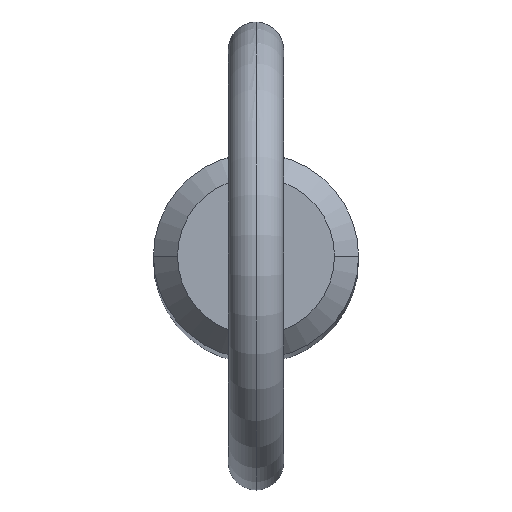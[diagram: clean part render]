
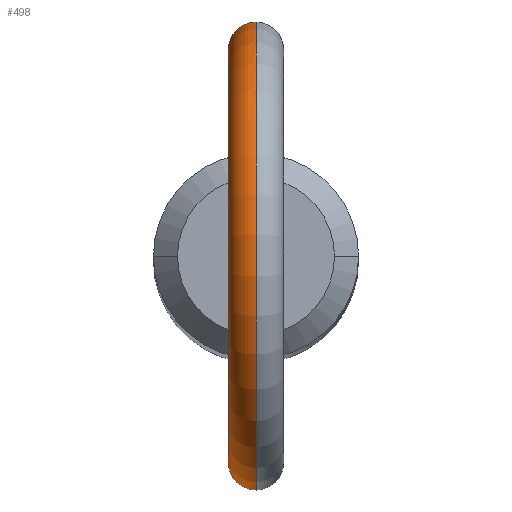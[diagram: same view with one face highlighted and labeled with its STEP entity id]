
A CAD part, top view. The second image highlights one B-rep face of the part: STEP entity #498.
In plain terms, the highlighted toroidal (fillet/blend) face has major radius 11.2 mm and minor radius 1.5 mm.
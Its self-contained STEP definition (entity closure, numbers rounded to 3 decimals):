
#8 = CARTESIAN_POINT ( 'NONE',  ( 0., 0., 132.1 ) ) ;
#16 = CARTESIAN_POINT ( 'NONE',  ( 0., 5.55, 120.677 ) ) ;
#22 = CARTESIAN_POINT ( 'NONE',  ( -0.213, 5.55, 124.145 ) ) ;
#23 = CARTESIAN_POINT ( 'NONE',  ( -0.212, -5.547, 120.688 ) ) ;
#27 = CARTESIAN_POINT ( 'NONE',  ( -0.42, -5.535, 120.732 ) ) ;
#32 = CARTESIAN_POINT ( 'NONE',  ( 0., -5.55, 124.145 ) ) ;
#42 = TOROIDAL_SURFACE ( 'NONE', #123, 11.2, 1.5 ) ;
#43 = DIRECTION ( 'NONE',  ( 0., 0., -1. ) ) ;
#48 = CIRCLE ( 'NONE', #479, 9.7 ) ;
#52 = CARTESIAN_POINT ( 'NONE',  ( 0., 5.55, 124.145 ) ) ;
#54 = EDGE_CURVE ( 'NONE', #58, #270, #48, .T. ) ;
#58 = VERTEX_POINT ( 'NONE', #52 ) ;
#60 = CARTESIAN_POINT ( 'NONE',  ( -0.786, 5.497, 123.857 ) ) ;
#61 = CARTESIAN_POINT ( 'NONE',  ( -0.941, 5.471, 123.707 ) ) ;
#62 = CARTESIAN_POINT ( 'NONE',  ( -1.195, -5.421, 123.371 ) ) ;
#66 = CARTESIAN_POINT ( 'NONE',  ( -0.807, 5.492, 120.906 ) ) ;
#68 = CARTESIAN_POINT ( 'NONE',  ( -0.976, -5.464, 121.031 ) ) ;
#70 = CARTESIAN_POINT ( 'NONE',  ( -0.807, -5.492, 120.905 ) ) ;
#72 = CARTESIAN_POINT ( 'NONE',  ( -0.106, -5.55, 124.145 ) ) ;
#74 = VERTEX_POINT ( 'NONE', #16 ) ;
#92 = CARTESIAN_POINT ( 'NONE',  ( -1.055, 5.449, 121.105 ) ) ;
#99 = CARTESIAN_POINT ( 'NONE',  ( -0.513, -5.527, 124.023 ) ) ;
#106 = CARTESIAN_POINT ( 'NONE',  ( -0.716, -5.504, 120.852 ) ) ;
#123 = AXIS2_PLACEMENT_3D ( 'NONE', #161, #242, #280 ) ;
#131 = ORIENTED_EDGE ( 'NONE', *, *, #54, .T. ) ;
#140 = CARTESIAN_POINT ( 'NONE',  ( -1.503, -5.343, 122.259 ) ) ;
#144 = CARTESIAN_POINT ( 'NONE',  ( -1.474, 5.351, 122.785 ) ) ;
#145 = CARTESIAN_POINT ( 'NONE',  ( -1.44, -5.36, 122.787 ) ) ;
#149 = CARTESIAN_POINT ( 'NONE',  ( -1.455, -5.356, 121.836 ) ) ;
#161 = CARTESIAN_POINT ( 'NONE',  ( 0., 0., 132.1 ) ) ;
#166 = EDGE_CURVE ( 'NONE', #58, #74, #256, .T. ) ;
#176 = CIRCLE ( 'NONE', #358, 12.7 ) ;
#181 = CARTESIAN_POINT ( 'NONE',  ( -1.363, 5.38, 121.534 ) ) ;
#185 = CARTESIAN_POINT ( 'NONE',  ( -0.716, 5.504, 120.852 ) ) ;
#186 = CARTESIAN_POINT ( 'NONE',  ( -1.362, -5.381, 121.532 ) ) ;
#192 = CARTESIAN_POINT ( 'NONE',  ( -0.523, -5.526, 120.766 ) ) ;
#196 = CARTESIAN_POINT ( 'NONE',  ( 0., -5.55, 124.145 ) ) ;
#225 = CARTESIAN_POINT ( 'NONE',  ( -1.5, -5.343, 122.153 ) ) ;
#230 = CARTESIAN_POINT ( 'NONE',  ( -1.485, -5.348, 122.579 ) ) ;
#242 = DIRECTION ( 'NONE',  ( 1., 0., 0. ) ) ;
#244 = DIRECTION ( 'NONE',  ( 1., 0., 0. ) ) ;
#256 = B_SPLINE_CURVE_WITH_KNOTS ( 'NONE', 3,
 ( #352, #22, #393, #60, #61, #305, #144, #271, #511, #181, #431, #92, #468, #66, #185, #510, #388, #348 ),
 .UNSPECIFIED., .F., .F.,
 ( 4, 2, 2, 2, 2, 2, 2, 2, 4 ),
 ( 0.006, 0.006, 0.007, 0.008, 0.009, 0.009, 0.01, 0.01, 0.011 ),
 .UNSPECIFIED. ) ;
#261 = FACE_OUTER_BOUND ( 'NONE', #382, .T. ) ;
#270 = VERTEX_POINT ( 'NONE', #196 ) ;
#271 = CARTESIAN_POINT ( 'NONE',  ( -1.509, 5.341, 122.155 ) ) ;
#280 = DIRECTION ( 'NONE',  ( 0., 0., -1. ) ) ;
#296 = DIRECTION ( 'NONE',  ( 1., 0., 0. ) ) ;
#297 = ORIENTED_EDGE ( 'NONE', *, *, #166, .F. ) ;
#305 = CARTESIAN_POINT ( 'NONE',  ( -1.321, 5.397, 123.204 ) ) ;
#306 = CARTESIAN_POINT ( 'NONE',  ( -0.107, -5.55, 120.677 ) ) ;
#337 = EDGE_CURVE ( 'NONE', #411, #270, #367, .T. ) ;
#347 = CARTESIAN_POINT ( 'NONE',  ( -0.939, -5.472, 123.71 ) ) ;
#348 = CARTESIAN_POINT ( 'NONE',  ( 0., 5.55, 120.677 ) ) ;
#350 = CARTESIAN_POINT ( 'NONE',  ( -1.054, -5.449, 121.104 ) ) ;
#352 = CARTESIAN_POINT ( 'NONE',  ( 0., 5.55, 124.145 ) ) ;
#356 = CARTESIAN_POINT ( 'NONE',  ( 0., -5.55, 120.677 ) ) ;
#358 = AXIS2_PLACEMENT_3D ( 'NONE', #366, #244, #43 ) ;
#366 = CARTESIAN_POINT ( 'NONE',  ( 0., 0., 132.1 ) ) ;
#367 = B_SPLINE_CURVE_WITH_KNOTS ( 'NONE', 3,
 ( #356, #306, #23, #27, #192, #106, #70, #68, #350, #399, #186, #149, #432, #225, #140, #230, #145, #504, #62, #347, #472, #99, #391, #434, #72, #32 ),
 .UNSPECIFIED., .F., .F.,
 ( 4, 2, 2, 2, 2, 2, 2, 2, 2, 2, 2, 2, 4 ),
 ( 0.01, 0.01, 0.01, 0.011, 0.011, 0.012, 0.012, 0.012, 0.013, 0.013, 0.014, 0.014, 0.015 ),
 .UNSPECIFIED. ) ;
#382 = EDGE_LOOP ( 'NONE', ( #449, #297, #131, #483 ) ) ;
#388 = CARTESIAN_POINT ( 'NONE',  ( -0.214, 5.55, 120.677 ) ) ;
#391 = CARTESIAN_POINT ( 'NONE',  ( -0.416, -5.535, 124.067 ) ) ;
#393 = CARTESIAN_POINT ( 'NONE',  ( -0.425, 5.537, 124.077 ) ) ;
#399 = CARTESIAN_POINT ( 'NONE',  ( -1.26, -5.407, 121.342 ) ) ;
#411 = VERTEX_POINT ( 'NONE', #443 ) ;
#429 = EDGE_CURVE ( 'NONE', #74, #411, #176, .T. ) ;
#431 = CARTESIAN_POINT ( 'NONE',  ( -1.26, 5.407, 121.343 ) ) ;
#432 = CARTESIAN_POINT ( 'NONE',  ( -1.477, -5.35, 121.942 ) ) ;
#434 = CARTESIAN_POINT ( 'NONE',  ( -0.211, -5.547, 124.129 ) ) ;
#443 = CARTESIAN_POINT ( 'NONE',  ( 0., -5.55, 120.677 ) ) ;
#449 = ORIENTED_EDGE ( 'NONE', *, *, #429, .F. ) ;
#460 = DIRECTION ( 'NONE',  ( 0., 0., -1. ) ) ;
#468 = CARTESIAN_POINT ( 'NONE',  ( -0.976, 5.464, 121.031 ) ) ;
#472 = CARTESIAN_POINT ( 'NONE',  ( -0.785, -5.497, 123.858 ) ) ;
#479 = AXIS2_PLACEMENT_3D ( 'NONE', #8, #296, #460 ) ;
#483 = ORIENTED_EDGE ( 'NONE', *, *, #337, .F. ) ;
#498 = ADVANCED_FACE ( 'NONE', ( #261 ), #42, .T. ) ;
#504 = CARTESIAN_POINT ( 'NONE',  ( -1.294, -5.398, 123.186 ) ) ;
#510 = CARTESIAN_POINT ( 'NONE',  ( -0.425, 5.537, 120.721 ) ) ;
#511 = CARTESIAN_POINT ( 'NONE',  ( -1.486, 5.348, 121.938 ) ) ;
